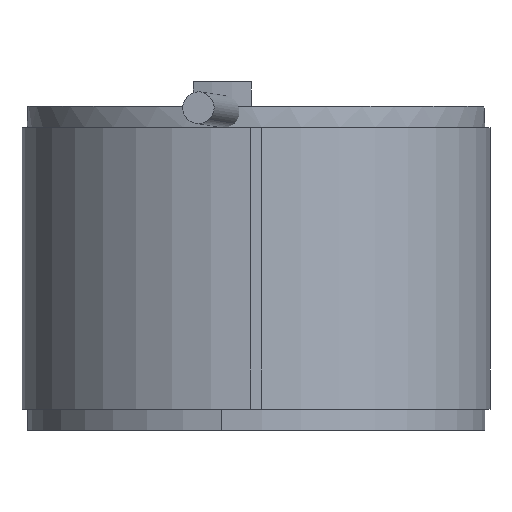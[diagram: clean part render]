
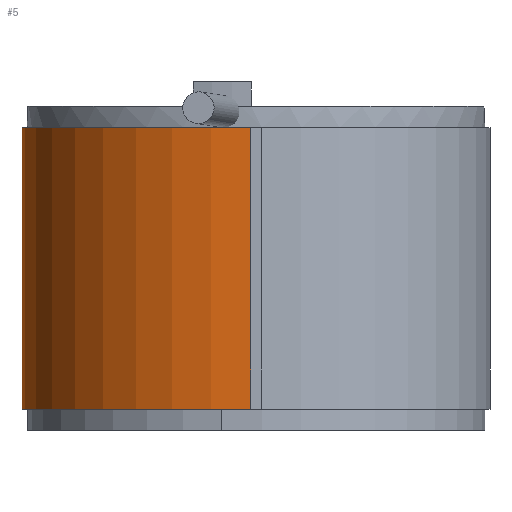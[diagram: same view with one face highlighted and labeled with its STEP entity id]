
A CAD part, front view. The second image highlights one B-rep face of the part: STEP entity #5.
In plain terms, the highlighted cylindrical face has radius 66.5 mm (diameter 133 mm), a partial arc.
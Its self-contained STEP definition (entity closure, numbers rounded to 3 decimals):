
#5 = ADVANCED_FACE ( 'NONE', ( #95 ), #473, .T. ) ;
#15 = CARTESIAN_POINT ( 'NONE',  ( 3.65, 104.691, 223.101 ) ) ;
#16 = CARTESIAN_POINT ( 'NONE',  ( 2.125, 38.209, 143.101 ) ) ;
#47 = DIRECTION ( 'NONE',  ( 0., 0., -1. ) ) ;
#77 = ORIENTED_EDGE ( 'NONE', *, *, #654, .F. ) ;
#95 = FACE_OUTER_BOUND ( 'NONE', #413, .T. ) ;
#97 = CARTESIAN_POINT ( 'NONE',  ( 2.125, 38.209, 223.101 ) ) ;
#114 = AXIS2_PLACEMENT_3D ( 'NONE', #15, #116, #1078 ) ;
#116 = DIRECTION ( 'NONE',  ( 0., 0., 1. ) ) ;
#120 = DIRECTION ( 'NONE',  ( 0., 0., -1. ) ) ;
#130 = DIRECTION ( 'NONE',  ( 1., 0., 0. ) ) ;
#144 = CARTESIAN_POINT ( 'NONE',  ( 3.65, 104.691, 143.101 ) ) ;
#149 = CARTESIAN_POINT ( 'NONE',  ( 2.125, 38.209, 387.498 ) ) ;
#176 = AXIS2_PLACEMENT_3D ( 'NONE', #144, #47, #130 ) ;
#229 = EDGE_CURVE ( 'NONE', #671, #843, #296, .T. ) ;
#289 = VECTOR ( 'NONE', #643, 1000. ) ;
#290 = VERTEX_POINT ( 'NONE', #338 ) ;
#296 = CIRCLE ( 'NONE', #446, 66.5 ) ;
#338 = CARTESIAN_POINT ( 'NONE',  ( -62.85, 104.691, 143.101 ) ) ;
#402 = ORIENTED_EDGE ( 'NONE', *, *, #757, .F. ) ;
#413 = EDGE_LOOP ( 'NONE', ( #402, #950, #77, #670 ) ) ;
#446 = AXIS2_PLACEMENT_3D ( 'NONE', #483, #120, #497 ) ;
#473 = CYLINDRICAL_SURFACE ( 'NONE', #114, 66.5 ) ;
#474 = CARTESIAN_POINT ( 'NONE',  ( -62.85, 104.691, 223.101 ) ) ;
#483 = CARTESIAN_POINT ( 'NONE',  ( 3.65, 104.691, 223.101 ) ) ;
#497 = DIRECTION ( 'NONE',  ( 1., 0., 0. ) ) ;
#643 = DIRECTION ( 'NONE',  ( 0., 0., 1. ) ) ;
#645 = LINE ( 'NONE', #652, #289 ) ;
#652 = CARTESIAN_POINT ( 'NONE',  ( -62.85, 104.691, 223.101 ) ) ;
#654 = EDGE_CURVE ( 'NONE', #671, #847, #880, .T. ) ;
#670 = ORIENTED_EDGE ( 'NONE', *, *, #229, .T. ) ;
#671 = VERTEX_POINT ( 'NONE', #97 ) ;
#696 = VECTOR ( 'NONE', #1187, 1000. ) ;
#712 = CIRCLE ( 'NONE', #176, 66.5 ) ;
#757 = EDGE_CURVE ( 'NONE', #290, #843, #645, .T. ) ;
#843 = VERTEX_POINT ( 'NONE', #474 ) ;
#847 = VERTEX_POINT ( 'NONE', #16 ) ;
#880 = LINE ( 'NONE', #149, #696 ) ;
#950 = ORIENTED_EDGE ( 'NONE', *, *, #1018, .F. ) ;
#1018 = EDGE_CURVE ( 'NONE', #847, #290, #712, .T. ) ;
#1078 = DIRECTION ( 'NONE',  ( -1., 0., 0. ) ) ;
#1187 = DIRECTION ( 'NONE',  ( 0., 0., -1. ) ) ;
